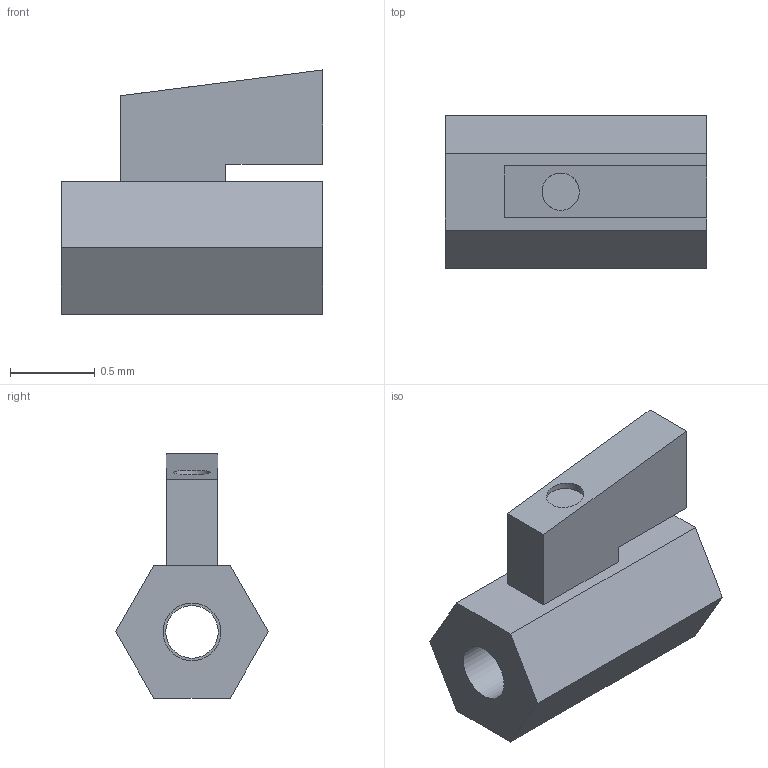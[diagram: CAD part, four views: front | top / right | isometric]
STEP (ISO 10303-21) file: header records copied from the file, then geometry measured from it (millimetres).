
FILE_DESCRIPTION(('Open CASCADE Model'),'2;1');
FILE_NAME('Open CASCADE Shape Model','2021-09-22T13:36:17',('Author'),( 'Open CASCADE'),'Open CASCADE STEP processor 7.3','Open CASCADE 7.3' ,'Unknown');
FILE_SCHEMA(('AUTOMOTIVE_DESIGN { 1 0 10303 214 1 1 1 1 }'));
Length unit declared in the file: millimetre
Products named in the file (1): Open CASCADE STEP translator 7.3 1
Bounding box: 1.54 x 0.9 x 1.44 mm (x, y, z)
Volume: 0.9 mm3; surface area: 8.7 mm2
Topology: 1 solids, 1 shells, 22 faces, 49 edges, 33 vertices
Faces by surface type: plane 18, cylinder 4
Full cylindrical faces by diameter (mm): 0.22 x1, 0.31 x1, 0.34 x2
Entity records: 1305 total; most frequent: CARTESIAN_POINT 274, DIRECTION 191, LINE 123, VECTOR 123, ORIENTED_EDGE 98, PCURVE 98, DEFINITIONAL_REPRESENTATION 98, EDGE_CURVE 49
